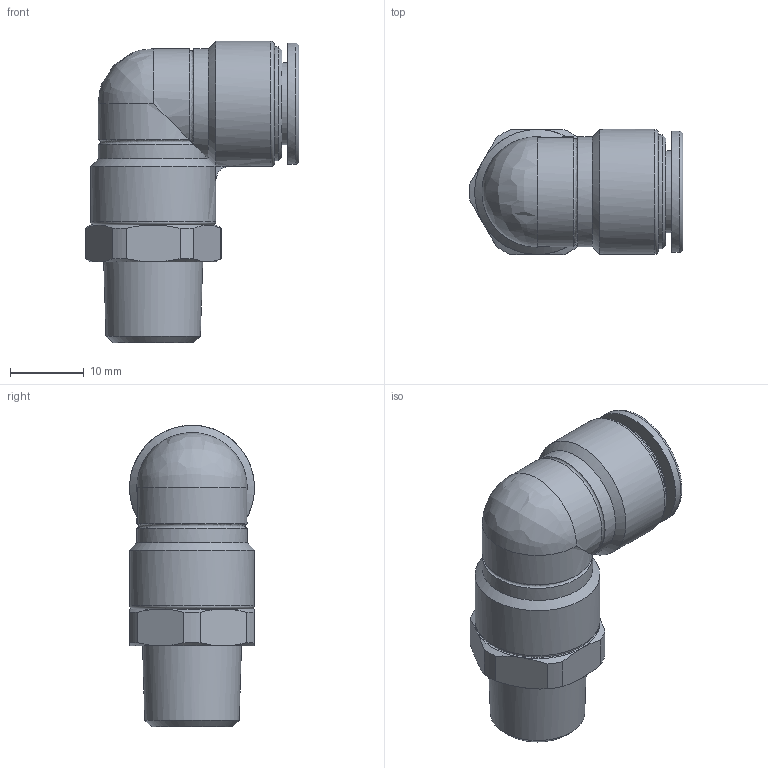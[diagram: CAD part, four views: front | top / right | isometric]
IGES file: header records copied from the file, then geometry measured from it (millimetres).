
Global section: file name: [12] FS10-02ML FS10-02MLW; native system: Autodesk Inventor 2014; preprocessor: unknown; author: kazuhiro.t; date: 20130806.164905; units: millimetre
Bounding box: 29.05 x 17 x 41 mm (x, y, z)
Volume: 8696.5 mm3; surface area: 3702.7 mm2
Topology: 1 solids, 1 shells, 60 faces, 137 edges, 83 vertices
Faces by surface type: bspline 60
